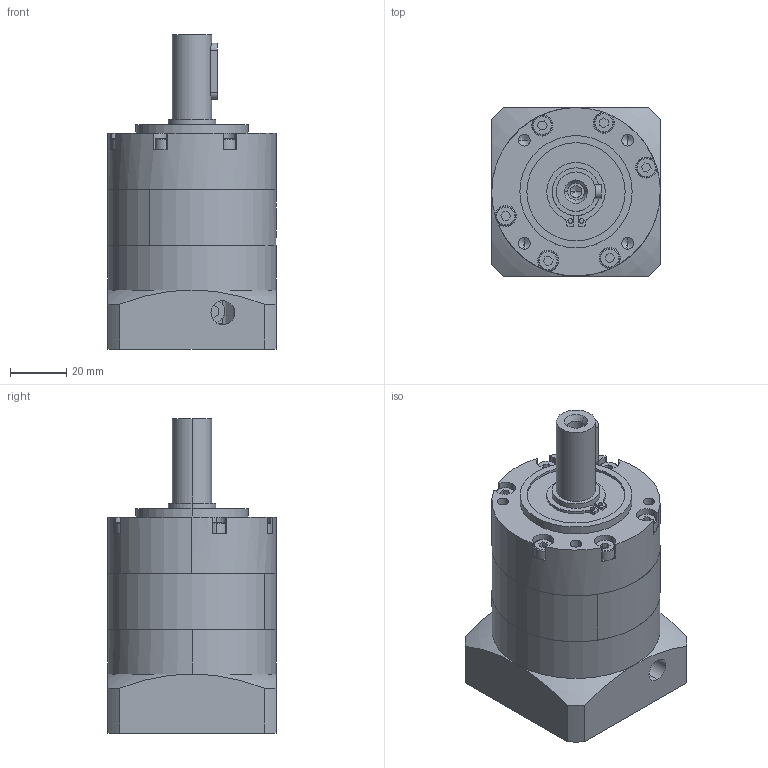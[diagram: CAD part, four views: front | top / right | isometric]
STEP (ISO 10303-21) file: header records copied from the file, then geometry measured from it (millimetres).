
FILE_DESCRIPTION (( 'STEP AP203' ), '1' );
FILE_NAME ('PLE060-L1- 8-38.1-66.7.STEP', '2022-07-01T03:27:06', ( 'Windows User' ), ( 'P R C' ), 'SwSTEP 2.0', 'SolidWorks 2016', '' );
FILE_SCHEMA (( 'CONFIG_CONTROL_DESIGN' ));
Length unit declared in the file: millimetre
Products named in the file (8): PLE060 奻屳唳; PLE060 狟屳唳-8_D6-60 D7-14 梓袧; PLE060-窣諉啣-38.1-M4-66.7_1; 邧埴瑩 5x5x20; GB／T276-94深沟球轴承61905-2RZ; PLE060-L1- 8-38.1-66.7; 囀鞠褒蹟佪 M5℅16; PLE060 κｳﾝﾈｦ_ﾒｻｼｶﾄﾚｳﾝﾈｦ
Assembly tree (7 placements, depth 2):
  PLE060-L1- 8-38.1-66.7
    囀鞠褒蹟佪 M5℅16
    PLE060 κｳﾝﾈｦ_ﾒｻｼｶﾄﾚｳﾝﾈｦ
    PLE060 奻屳唳
    PLE060 狟屳唳-8_D6-60 D7-14 梓袧
    PLE060-窣諉啣-38.1-M4-66.7_1
    邧埴瑩 5x5x20
    GB／T276-94深沟球轴承61905-2RZ
Bounding box: 60 x 60 x 112 mm (x, y, z)
Volume: 209148.2 mm3; surface area: 64182.4 mm2
Topology: 7 solids, 7 shells, 1119 faces, 3101 edges, 2042 vertices
Faces by surface type: plane 547, cylinder 202, bspline 180, sphere 91, torus 73, cone 26
Entity records: 47191 total; most frequent: CARTESIAN_POINT 19249, ORIENTED_EDGE 6064, DIRECTION 4998, EDGE_CURVE 3032, VERTEX_POINT 2010, AXIS2_PLACEMENT_3D 1775, LINE 1448, VECTOR 1448
